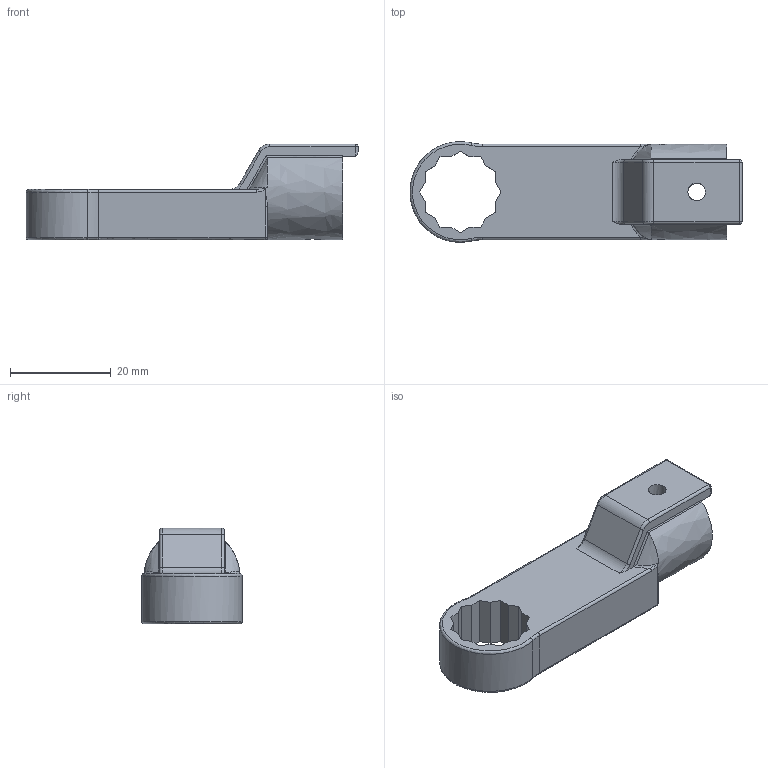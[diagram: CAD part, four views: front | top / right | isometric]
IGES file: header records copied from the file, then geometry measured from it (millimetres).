
Global section: file name: RH12DX14; native system: Autodesk Inventor 2016; preprocessor: unknown; author: Q532; date: 20151110.160541; units: millimetre
Bounding box: 66 x 19.96 x 19 mm (x, y, z)
Volume: 10136.6 mm3; surface area: 4983.9 mm2
Topology: 1 solids, 1 shells, 93 faces, 251 edges, 154 vertices
Faces by surface type: bspline 93
